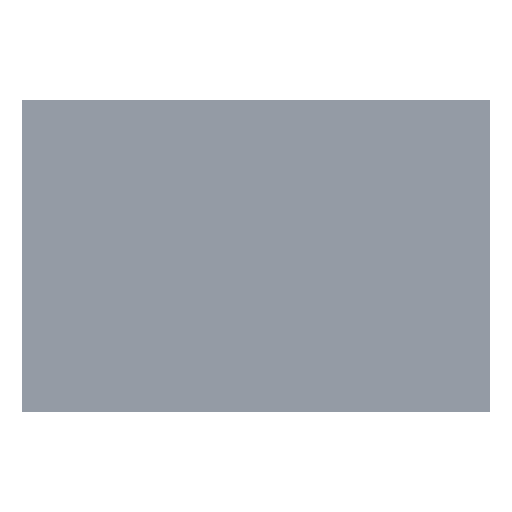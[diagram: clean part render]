
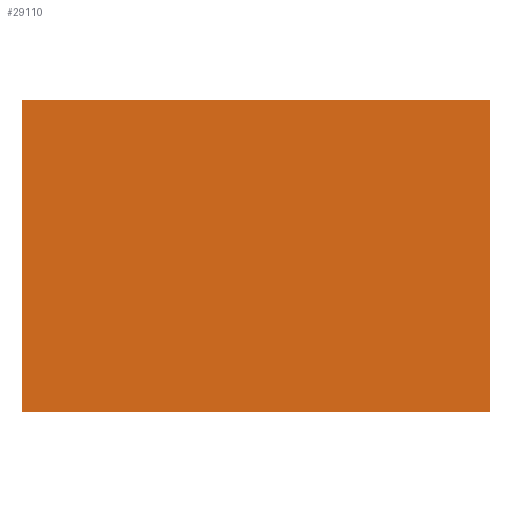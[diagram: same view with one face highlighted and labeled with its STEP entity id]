
A CAD part, left-side view. The second image highlights one B-rep face of the part: STEP entity #29110.
In plain terms, the highlighted planar face has unit normal (-1, 0, 0).
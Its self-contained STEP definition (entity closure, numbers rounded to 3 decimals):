
#29020=CARTESIAN_POINT('',(2600.,2900.,21350.));
#29021=VERTEX_POINT('',#29020);
#29028=CARTESIAN_POINT('',(2600.,8905.,21350.));
#29029=VERTEX_POINT('',#29028);
#29030=CARTESIAN_POINT('',(2600.,8905.,21350.));
#29031=DIRECTION('',(-0.,-1.,-0.));
#29032=VECTOR('',#29031,6005.);
#29033=LINE('',#29030,#29032);
#29034=EDGE_CURVE('',#29029,#29021,#29033,.T.);
#29052=CARTESIAN_POINT('',(2600.,8905.,25350.));
#29053=VERTEX_POINT('',#29052);
#29054=CARTESIAN_POINT('',(2600.,8905.,21350.));
#29055=DIRECTION('',(0.,-0.,1.));
#29056=VECTOR('',#29055,4000.);
#29057=LINE('',#29054,#29056);
#29058=EDGE_CURVE('',#29029,#29053,#29057,.T.);
#29076=CARTESIAN_POINT('',(2600.,2900.,25350.));
#29077=VERTEX_POINT('',#29076);
#29084=CARTESIAN_POINT('',(2600.,2900.,21350.));
#29085=DIRECTION('',(0.,0.,1.));
#29086=VECTOR('',#29085,4000.);
#29087=LINE('',#29084,#29086);
#29088=EDGE_CURVE('',#29021,#29077,#29087,.T.);
#29094=CARTESIAN_POINT('',(2600.,8905.,21350.));
#29095=DIRECTION('',(-1.,0.,0.));
#29096=DIRECTION('',(0.,-1.,0.));
#29097=AXIS2_PLACEMENT_3D('',#29094,#29095,#29096);
#29098=PLANE('',#29097);
#29099=ORIENTED_EDGE('',*,*,#29034,.T.);
#29100=ORIENTED_EDGE('',*,*,#29088,.T.);
#29101=CARTESIAN_POINT('',(2600.,8905.,25350.));
#29102=DIRECTION('',(0.,-1.,0.));
#29103=VECTOR('',#29102,6005.);
#29104=LINE('',#29101,#29103);
#29105=EDGE_CURVE('',#29053,#29077,#29104,.T.);
#29106=ORIENTED_EDGE('',*,*,#29105,.F.);
#29107=ORIENTED_EDGE('',*,*,#29058,.F.);
#29108=EDGE_LOOP('',(#29099,#29100,#29106,#29107));
#29109=FACE_BOUND('',#29108,.T.);
#29110=ADVANCED_FACE('',(#29109),#29098,.T.);
